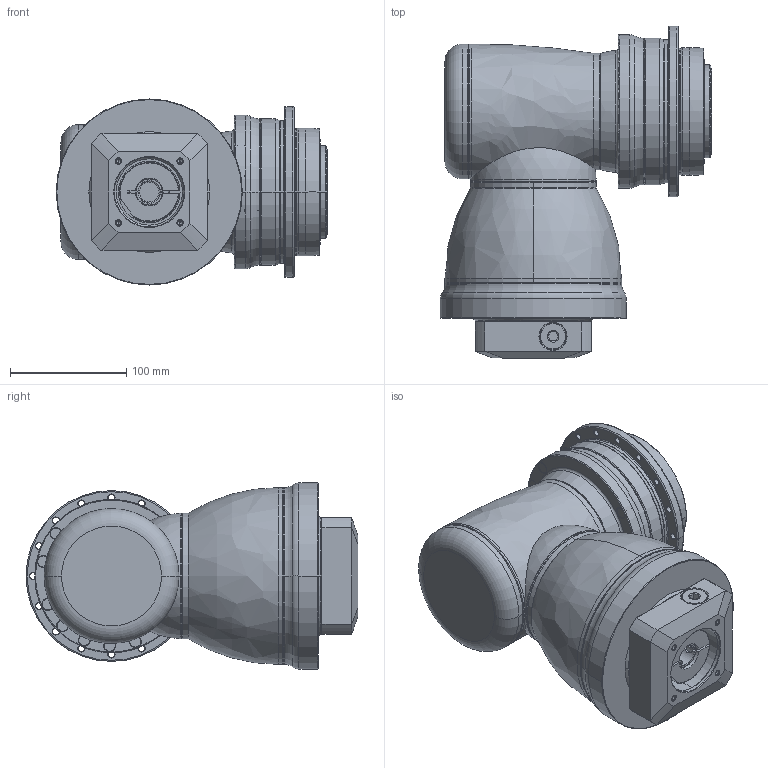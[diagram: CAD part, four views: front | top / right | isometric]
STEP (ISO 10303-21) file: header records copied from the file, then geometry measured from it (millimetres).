
FILE_DESCRIPTION((''),'2;1');
FILE_NAME('APK110_2ST_SBG_19-P0409410201_ASM','2018-10-30T',('d01226'),(''),'PRO/ENGINEER BY PARAMETRIC TECHNOLOGY CORPORATION, 2015240','PRO/ENGINEER BY PARAMETRIC TECHNOLOGY CORPORATION, 2015240','');
FILE_SCHEMA(('CONFIG_CONTROL_DESIGN'));
Length unit declared in the file: millimetre
Products named in the file (13): P0278401003; P0359401103; P1211400001; P1802410011; P1018500002; P1365500001; P1007501001; P1318501701; P0503400008; P0129507001; P0409410201; 21711416017; APK110_2ST_SBG_19-P0409410201_ASM
Assembly tree (12 placements, depth 2):
  APK110_2ST_SBG_19-P0409410201_ASM
    P0278401003
    P0359401103
    P1211400001
    P1802410011
    P1018500002
    P1365500001
    P1007501001
    P1318501701
    P0503400008
    P0129507001
    P0409410201
    21711416017
Bounding box: 233.5 x 285.5 x 160 mm (x, y, z)
Volume: 4596189.8 mm3; surface area: 460368 mm2
Topology: 13 solids, 34 shells, 791 faces, 1805 edges, 1105 vertices
Faces by surface type: cylinder 336, cone 204, plane 156, torus 80, bspline 13, sphere 2
Entity records: 24039 total; most frequent: CARTESIAN_POINT 5393, DIRECTION 4337, ORIENTED_EDGE 3452, AXIS2_PLACEMENT_3D 1867, EDGE_CURVE 1769, VERTEX_POINT 1105, CIRCLE 1054, EDGE_LOOP 938
